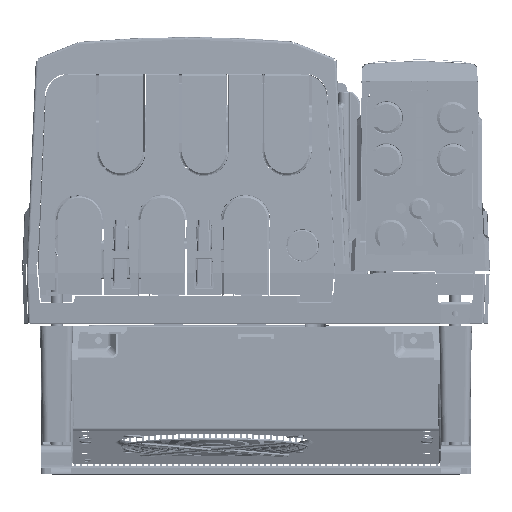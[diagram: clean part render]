
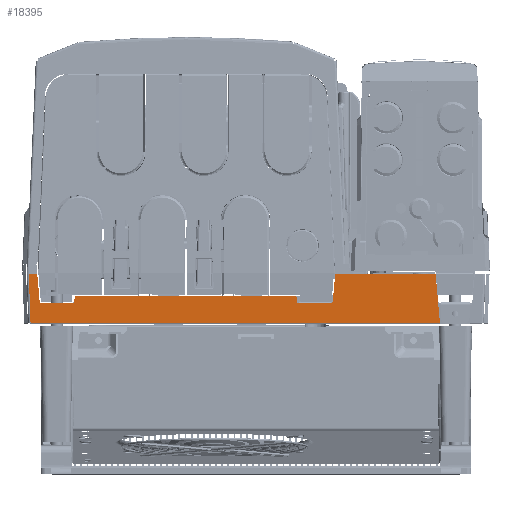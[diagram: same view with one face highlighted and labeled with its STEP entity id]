
A CAD part, front view. The second image highlights one B-rep face of the part: STEP entity #18395.
In plain terms, the highlighted planar face has unit normal (0, -0.999, -0.035).
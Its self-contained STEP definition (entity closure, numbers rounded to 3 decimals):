
#4527=DIRECTION('',(1.,0.,0.));
#4528=VECTOR('',#4527,54.939);
#4529=CARTESIAN_POINT('',(63.116,-552.45,56.));
#4530=LINE('',#4529,#4528);
#4531=CARTESIAN_POINT('',(118.055,-552.45,56.));
#4532=CARTESIAN_POINT('',(118.36,-552.45,56.));
#4533=CARTESIAN_POINT('',(118.769,-552.442,55.779));
#4534=CARTESIAN_POINT('',(119.024,-552.429,55.391));
#4535=CARTESIAN_POINT('',(119.051,-552.418,55.087));
#4537=DIRECTION('',(0.087,0.035,-0.996));
#4538=VECTOR('',#4537,31.762);
#4539=CARTESIAN_POINT('',(119.051,-552.418,55.087));
#4540=LINE('',#4539,#4538);
#4541=DIRECTION('',(-1.,0.,0.));
#4542=VECTOR('',#4541,271.182);
#4543=CARTESIAN_POINT('',(121.818,-551.314,23.465));
#4544=LINE('',#4543,#4542);
#4545=DIRECTION('',(0.035,0.035,-0.999));
#4546=VECTOR('',#4545,32.575);
#4547=CARTESIAN_POINT('',(-150.501,-552.45,56.));
#4548=LINE('',#4547,#4546);
#4549=DIRECTION('',(1.,0.,0.));
#4550=VECTOR('',#4549,5.572);
#4551=CARTESIAN_POINT('',(-150.501,-552.45,56.));
#4552=LINE('',#4551,#4550);
#4553=DIRECTION('',(0.087,0.035,-0.996));
#4554=VECTOR('',#4553,18.931);
#4555=CARTESIAN_POINT('',(-144.929,-552.45,56.));
#4556=LINE('',#4555,#4554);
#4557=CARTESIAN_POINT('',(-143.28,-551.792,
37.153));
#4558=CARTESIAN_POINT('',(-143.253,-551.781,
36.849));
#4559=CARTESIAN_POINT('',(-142.997,-551.768,
36.461));
#4560=CARTESIAN_POINT('',(-142.589,-551.76,36.24));
#4561=CARTESIAN_POINT('',(-142.284,-551.76,36.24));
#4563=DIRECTION('',(1.,0.,0.));
#4564=VECTOR('',#4563,20.867);
#4565=CARTESIAN_POINT('',(-142.284,-551.76,36.24));
#4566=LINE('',#4565,#4564);
#4567=CARTESIAN_POINT('',(-121.416,-551.76,36.24));
#4568=CARTESIAN_POINT('',(-121.111,-551.76,36.24));
#4569=CARTESIAN_POINT('',(-120.703,-551.768,
36.461));
#4570=CARTESIAN_POINT('',(-120.447,-551.781,
36.849));
#4571=CARTESIAN_POINT('',(-120.42,-551.792,
37.153));
#4573=DIRECTION('',(0.087,-0.035,0.996));
#4574=VECTOR('',#4573,2.887);
#4575=CARTESIAN_POINT('',(-120.42,-551.792,
37.153));
#4576=LINE('',#4575,#4574);
#4577=CARTESIAN_POINT('',(-120.169,-551.892,
40.027));
#4578=CARTESIAN_POINT('',(-120.142,-551.903,
40.331));
#4579=CARTESIAN_POINT('',(-119.886,-551.916,
40.719));
#4580=CARTESIAN_POINT('',(-119.478,-551.924,40.94));
#4581=CARTESIAN_POINT('',(-119.172,-551.924,40.94));
#4583=DIRECTION('',(1.,0.,0.));
#4584=VECTOR('',#4583,145.095);
#4585=CARTESIAN_POINT('',(-119.172,-551.924,40.94));
#4586=LINE('',#4585,#4584);
#4587=CARTESIAN_POINT('',(25.922,-551.924,40.94));
#4588=CARTESIAN_POINT('',(26.228,-551.924,40.94));
#4589=CARTESIAN_POINT('',(26.636,-551.916,40.719));
#4590=CARTESIAN_POINT('',(26.892,-551.903,40.331));
#4591=CARTESIAN_POINT('',(26.919,-551.892,40.027));
#4593=DIRECTION('',(0.087,0.035,-0.996));
#4594=VECTOR('',#4593,2.887);
#4595=CARTESIAN_POINT('',(26.919,-551.892,40.027));
#4596=LINE('',#4595,#4594);
#4597=CARTESIAN_POINT('',(27.17,-551.792,37.153));
#4598=CARTESIAN_POINT('',(27.197,-551.781,36.849));
#4599=CARTESIAN_POINT('',(27.453,-551.768,36.461));
#4600=CARTESIAN_POINT('',(27.861,-551.76,36.24));
#4601=CARTESIAN_POINT('',(28.166,-551.76,36.24));
#4603=DIRECTION('',(1.,0.,0.));
#4604=VECTOR('',#4603,21.667);
#4605=CARTESIAN_POINT('',(28.166,-551.76,36.24));
#4606=LINE('',#4605,#4604);
#4607=CARTESIAN_POINT('',(49.834,-551.76,36.24));
#4608=CARTESIAN_POINT('',(50.139,-551.76,36.24));
#4609=CARTESIAN_POINT('',(50.547,-551.768,36.461));
#4610=CARTESIAN_POINT('',(50.803,-551.781,36.849));
#4611=CARTESIAN_POINT('',(50.83,-551.792,37.153));
#4613=DIRECTION('',(0.087,-0.035,0.996));
#4614=VECTOR('',#4613,18.931);
#4615=CARTESIAN_POINT('',(50.83,-551.792,37.153));
#4616=LINE('',#4615,#4614);
#6995=CARTESIAN_POINT('',(63.116,-552.45,56.));
#6997=DIRECTION('',(-1.,0.,0.));
#6998=VECTOR('',#6997,10.638);
#6999=CARTESIAN_POINT('',(63.116,-552.45,56.));
#7000=LINE('',#6999,#6998);
#9582=CARTESIAN_POINT('',(121.818,-551.314,23.465));
#12613=CARTESIAN_POINT('',(-142.284,-551.76,36.24));
#12614=CARTESIAN_POINT('',(-121.416,-551.76,36.24));
#12615=VERTEX_POINT('',#12613);
#12616=VERTEX_POINT('',#12614);
#12634=VERTEX_POINT('',#6995);
#12636=CARTESIAN_POINT('',(-144.929,-552.45,56.));
#12637=CARTESIAN_POINT('',(-143.28,-551.792,
37.153));
#12638=VERTEX_POINT('',#12636);
#12639=VERTEX_POINT('',#12637);
#12707=CARTESIAN_POINT('',(52.479,-552.45,56.));
#12708=VERTEX_POINT('',#12707);
#12709=VERTEX_POINT('',#4591);
#12710=VERTEX_POINT('',#4587);
#12711=VERTEX_POINT('',#4611);
#12712=VERTEX_POINT('',#4607);
#12721=CARTESIAN_POINT('',(28.166,-551.76,36.24));
#12722=VERTEX_POINT('',#12721);
#12723=VERTEX_POINT('',#4597);
#12771=VERTEX_POINT('',#4581);
#12772=VERTEX_POINT('',#4577);
#12773=CARTESIAN_POINT('',(-120.42,-551.792,
37.153));
#12774=VERTEX_POINT('',#12773);
#13000=VERTEX_POINT('',#9582);
#13002=CARTESIAN_POINT('',(-150.501,-552.45,56.));
#13003=CARTESIAN_POINT('',(-149.365,-551.314,
23.465));
#13004=VERTEX_POINT('',#13002);
#13005=VERTEX_POINT('',#13003);
#13112=CARTESIAN_POINT('',(118.055,-552.45,56.));
#13113=VERTEX_POINT('',#13112);
#13114=CARTESIAN_POINT('',(119.051,-552.418,
55.087));
#13115=VERTEX_POINT('',#13114);
#18348=CARTESIAN_POINT('',(-156.34,-552.45,56.));
#18349=DIRECTION('',(0.,-0.999,-0.035));
#18350=DIRECTION('',(1.,0.,0.));
#18351=AXIS2_PLACEMENT_3D('',#18348,#18349,#18350);
#18352=PLANE('',#18351);
#18354=ORIENTED_EDGE('',*,*,#18353,.T.);
#18356=ORIENTED_EDGE('',*,*,#18355,.T.);
#18358=ORIENTED_EDGE('',*,*,#18357,.T.);
#18360=ORIENTED_EDGE('',*,*,#18359,.T.);
#18362=ORIENTED_EDGE('',*,*,#18361,.F.);
#18364=ORIENTED_EDGE('',*,*,#18363,.T.);
#18366=ORIENTED_EDGE('',*,*,#18365,.T.);
#18368=ORIENTED_EDGE('',*,*,#18367,.T.);
#18370=ORIENTED_EDGE('',*,*,#18369,.T.);
#18372=ORIENTED_EDGE('',*,*,#18371,.T.);
#18374=ORIENTED_EDGE('',*,*,#18373,.T.);
#18376=ORIENTED_EDGE('',*,*,#18375,.T.);
#18378=ORIENTED_EDGE('',*,*,#18377,.T.);
#18380=ORIENTED_EDGE('',*,*,#18379,.T.);
#18382=ORIENTED_EDGE('',*,*,#18381,.T.);
#18384=ORIENTED_EDGE('',*,*,#18383,.T.);
#18386=ORIENTED_EDGE('',*,*,#18385,.T.);
#18388=ORIENTED_EDGE('',*,*,#18387,.T.);
#18390=ORIENTED_EDGE('',*,*,#18389,.T.);
#18392=ORIENTED_EDGE('',*,*,#18391,.F.);
#18393=EDGE_LOOP('',(#18354,#18356,#18358,#18360,#18362,#18364,#18366,#18368,
#18370,#18372,#18374,#18376,#18378,#18380,#18382,#18384,#18386,#18388,#18390,
#18392));
#18394=FACE_OUTER_BOUND('',#18393,.F.);
#18395=ADVANCED_FACE('',(#18394),#18352,.T.);
#4536=B_SPLINE_CURVE_WITH_KNOTS('',3,(#4531,#4532,#4533,#4534,#4535),
.UNSPECIFIED.,.F.,.F.,(4,1,4),(0.,0.5,1.),.UNSPECIFIED.);
#4562=B_SPLINE_CURVE_WITH_KNOTS('',3,(#4557,#4558,#4559,#4560,#4561),
.UNSPECIFIED.,.F.,.F.,(4,1,4),(0.,0.5,1.),.UNSPECIFIED.);
#4572=B_SPLINE_CURVE_WITH_KNOTS('',3,(#4567,#4568,#4569,#4570,#4571),
.UNSPECIFIED.,.F.,.F.,(4,1,4),(0.,0.5,1.),.UNSPECIFIED.);
#4582=B_SPLINE_CURVE_WITH_KNOTS('',3,(#4577,#4578,#4579,#4580,#4581),
.UNSPECIFIED.,.F.,.F.,(4,1,4),(0.,0.5,1.),.UNSPECIFIED.);
#4592=B_SPLINE_CURVE_WITH_KNOTS('',3,(#4587,#4588,#4589,#4590,#4591),
.UNSPECIFIED.,.F.,.F.,(4,1,4),(0.,0.5,1.),.UNSPECIFIED.);
#4602=B_SPLINE_CURVE_WITH_KNOTS('',3,(#4597,#4598,#4599,#4600,#4601),
.UNSPECIFIED.,.F.,.F.,(4,1,4),(0.,0.5,1.),.UNSPECIFIED.);
#4612=B_SPLINE_CURVE_WITH_KNOTS('',3,(#4607,#4608,#4609,#4610,#4611),
.UNSPECIFIED.,.F.,.F.,(4,1,4),(0.,0.5,1.),.UNSPECIFIED.);
#18353=EDGE_CURVE('',#12634,#13113,#4530,.T.);
#18355=EDGE_CURVE('',#13113,#13115,#4536,.T.);
#18357=EDGE_CURVE('',#13115,#13000,#4540,.T.);
#18359=EDGE_CURVE('',#13000,#13005,#4544,.T.);
#18361=EDGE_CURVE('',#13004,#13005,#4548,.T.);
#18363=EDGE_CURVE('',#13004,#12638,#4552,.T.);
#18365=EDGE_CURVE('',#12638,#12639,#4556,.T.);
#18367=EDGE_CURVE('',#12639,#12615,#4562,.T.);
#18369=EDGE_CURVE('',#12615,#12616,#4566,.T.);
#18371=EDGE_CURVE('',#12616,#12774,#4572,.T.);
#18373=EDGE_CURVE('',#12774,#12772,#4576,.T.);
#18375=EDGE_CURVE('',#12772,#12771,#4582,.T.);
#18377=EDGE_CURVE('',#12771,#12710,#4586,.T.);
#18379=EDGE_CURVE('',#12710,#12709,#4592,.T.);
#18381=EDGE_CURVE('',#12709,#12723,#4596,.T.);
#18383=EDGE_CURVE('',#12723,#12722,#4602,.T.);
#18385=EDGE_CURVE('',#12722,#12712,#4606,.T.);
#18387=EDGE_CURVE('',#12712,#12711,#4612,.T.);
#18389=EDGE_CURVE('',#12711,#12708,#4616,.T.);
#18391=EDGE_CURVE('',#12634,#12708,#7000,.T.);
